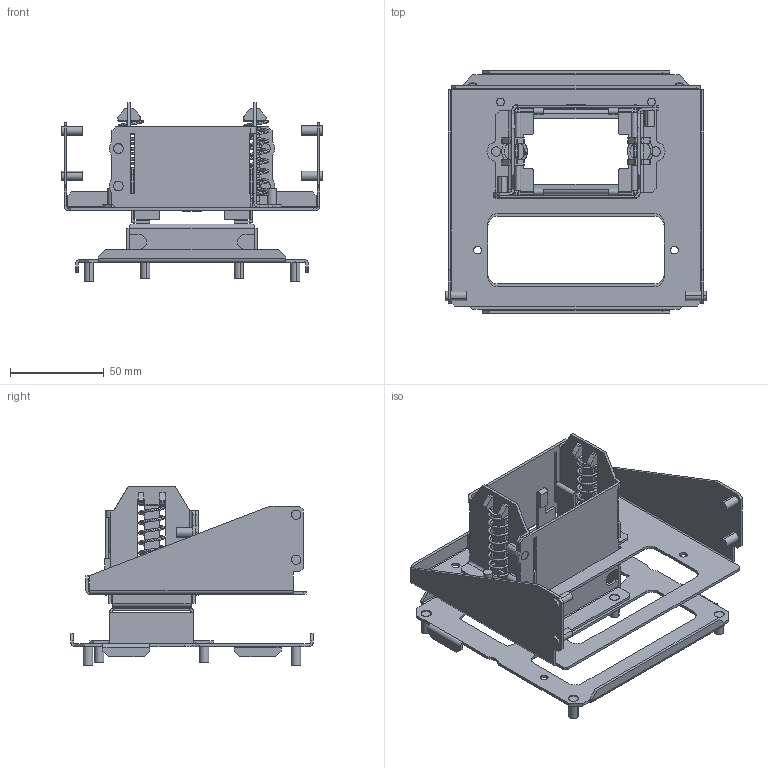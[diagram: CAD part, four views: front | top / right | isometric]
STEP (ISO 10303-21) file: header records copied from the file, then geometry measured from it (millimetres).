
FILE_DESCRIPTION(('CAx-IF Rec.Pracs.---Model Styling and Organization---1.2---2011-12-15','CAx-IF Rec.Pracs.---Geometric and Assembly Validation Properties---4.1---2014-06-16','CAx-IF Rec.Pracs.---PMI Polyline Presentation---2.0---2013-05-24'),'2;1');
FILE_NAME('R5M2W3M3BR70.stp','2021-05-05T12:16:32+03:00',(''),(''),'STEP Interface 4.4 by CT CoreTechnologie','3D_Evolution4.4 by CT CoreTechnologie','');
FILE_SCHEMA(('AUTOMOTIVE_DESIGN { 1 0 10303 214 1 1 1 1 }'));
Length unit declared in the file: millimetre
Products named in the file (9): R5M2W3M3BR70; M5x8-DIN7500C_stright; RB.1570.00.00.0; RB.1353.00.00.0_-02; RB.1571.00.00.0_In prestressed condition - 40 mm; RB.1569.00.00.0_-00; RB.1621.00.00.0_-00; RB.1567.00.00.0_-01; RB.1254.00.00.0_-01
Assembly tree (31 placements, depth 2):
  R5M2W3M3BR70
    M5x8-DIN7500C_stright  x18
    RB.1570.00.00.0  x2
    RB.1353.00.00.0_-02
    RB.1571.00.00.0_In prestressed condition - 40 mm  x2
    RB.1569.00.00.0_-00  x2
    RB.1621.00.00.0_-00  x4
    RB.1567.00.00.0_-01
    RB.1254.00.00.0_-01
Bounding box: 139.1 x 129.2 x 95.4 mm (x, y, z)
Surface area: 112324.2 mm2 (no closed solid volume)
Topology: 0 solids, 39 shells, 709 faces, 1818 edges, 1187 vertices
Faces by surface type: plane 496, cylinder 193, bspline 20
Entity records: 15680 total; most frequent: CARTESIAN_POINT 3808, ORIENTED_EDGE 2312, DIRECTION 2296, EDGE_CURVE 1156, VECTOR 906, LINE 906, VERTEX_POINT 747, AXIS2_PLACEMENT_3D 695
